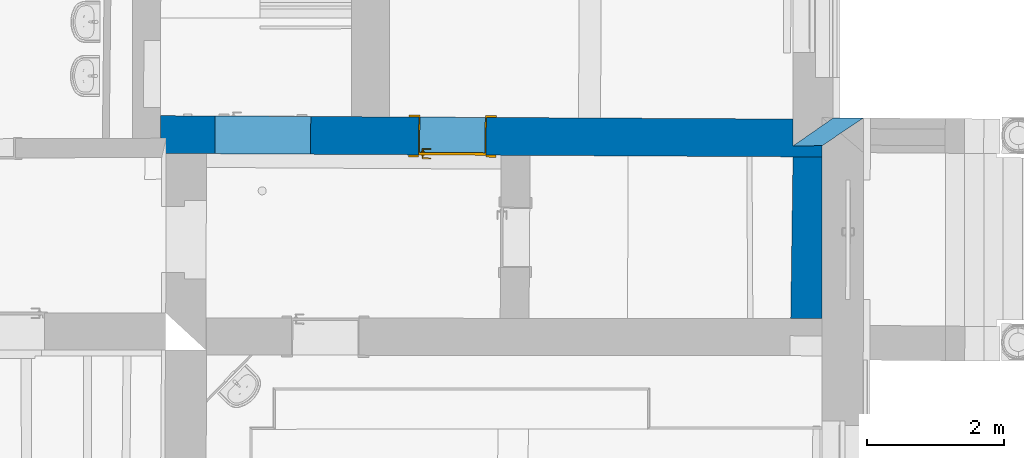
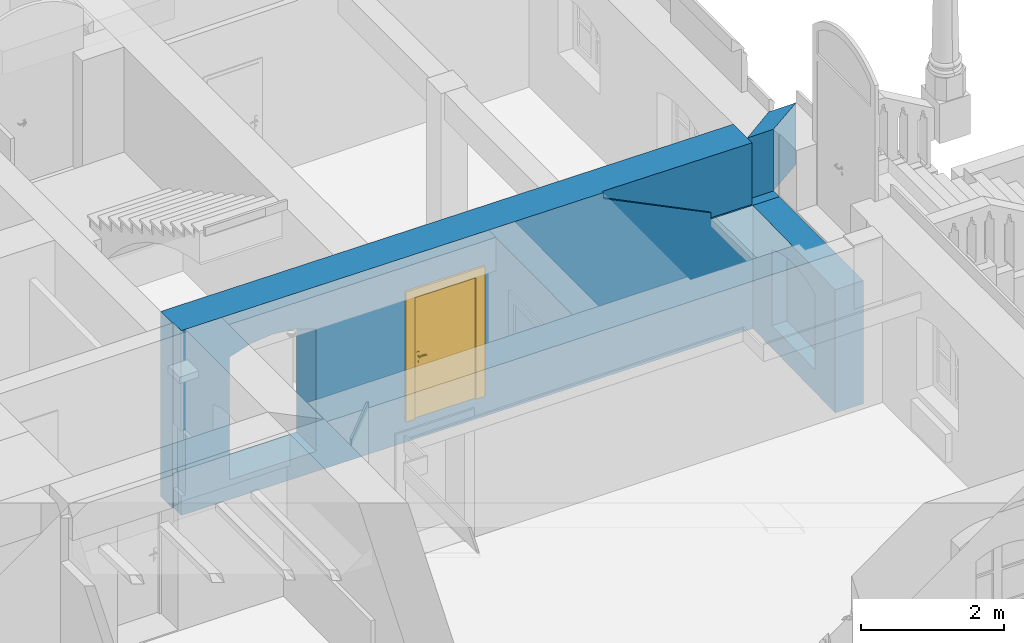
# One storey, part 106 of 196: 3 walls, 1 door, 3 openings.
"""IFC2X3 building model written with IfcOpenShell, lengths in metres."""

from ifc_helpers import new_model, entity, si_unit, converted_unit, derived_unit, money_unit, direction, frame, origin_with_axes, origin_2d_with_axis, place, context, subcontext, project, spatial, polyline, rectangle, outline, extrude, boolean, open_shell, faceted_brep, surface_model, material, type_object, element, fill, save


model = new_model("IFC2X3")

# Units and contexts
model_context = context("Model", 3, precision=1e-05, world=origin_with_axes(), true_north=direction((0.0, 1.0)))
body_context = subcontext(model_context, "Body", "Model", "MODEL_VIEW")
ifc_project = project(units=[si_unit("LENGTHUNIT", "METRE"), si_unit("AREAUNIT", "SQUARE_METRE"), si_unit("VOLUMEUNIT", "CUBIC_METRE"), converted_unit("PLANEANGLEUNIT", "DEGREE", entity("IfcPlaneAngleMeasure", 0.0174532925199), si_unit("PLANEANGLEUNIT", "RADIAN"), dimensions=[0, 0, 0, 0, 0, 0, 0]), money_unit("EUR"), converted_unit("TIMEUNIT", "Year", entity("IfcTimeMeasure", 31556926.0), si_unit("TIMEUNIT", "SECOND"), dimensions=[0, 0, 1, 0, 0, 0, 0]), si_unit("MASSUNIT", "GRAM", prefix="KILO"), si_unit("THERMODYNAMICTEMPERATUREUNIT", "DEGREE_CELSIUS"), si_unit("LUMINOUSINTENSITYUNIT", "LUMEN"), si_unit("ENERGYUNIT", "JOULE", prefix="MEGA"), derived_unit("THERMALCONDUCTANCEUNIT", [(si_unit("POWERUNIT", "WATT"), 1), (si_unit("LENGTHUNIT", "METRE"), -1), (si_unit("THERMODYNAMICTEMPERATUREUNIT", "KELVIN"), -1)]), derived_unit("SPECIFICHEATCAPACITYUNIT", [(si_unit("ENERGYUNIT", "JOULE"), 1), (si_unit("MASSUNIT", "GRAM", prefix="KILO"), -1), (si_unit("THERMODYNAMICTEMPERATUREUNIT", "KELVIN"), -1)]), derived_unit("MASSDENSITYUNIT", [(si_unit("MASSUNIT", "GRAM", prefix="KILO"), 1), (si_unit("VOLUMEUNIT", "CUBIC_METRE"), -1)])], contexts=[model_context])

# Site, building, storey
site_placement = place(None, origin_with_axes())
site = spatial("IfcSite", under=ifc_project, at=site_placement, Name="Gelände", CompositionType="ELEMENT")
building_placement = place(site_placement, origin_with_axes())
building = spatial("IfcBuilding", under=site, at=building_placement, Name="Gebäude", CompositionType="ELEMENT")
storey_placement = place(building_placement, frame((0.0, 0.0, -3.0), z_axis=(0.0, 0.0, 1.0), x_axis=(1.0, 0.0, 0.0)))
storey = spatial("IfcBuildingStorey", under=building, at=storey_placement, Name="KELLERGESCHOSS", CompositionType="ELEMENT", Elevation=-3.0)

# Wall
ifc_material = material(Name="05_ALLGEMEIN - TRAGENDE BAUTEILE")
wall_type_1 = type_object("IfcWallType", Name="05_ALLGEMEIN - TRAGENDE BAUTEILE 400", PredefinedType="ELEMENTEDWALL")
wall_1_placement = place(storey_placement, frame((32.1207494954, 19.80428634, -0.36), z_axis=(0.0, 0.0, 1.0), x_axis=(-0.999985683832, -0.00535089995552, 0.0)))
element("IfcWall", 1, at=wall_1_placement, inside=storey, type_object=wall_type_1, material=ifc_material, Name="Wand-038", ObjectType="ELEMENTEDWALL", context=body_context, shape_type="CSG", body=[
    boolean("DIFFERENCE", extrude(outline(polyline([(0.0, 0.0), (1.02566973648, 0.0), (1.02566973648, 0.4), (0.0, 0.4), (0.0, 0.0)])), origin_with_axes(), (0.0, 0.0, 1.0), 3.15), faceted_brep([(0.0, 0.0, 2.1), (0.0, 0.0, 3.15), (0.0, 0.4, 3.15), (0.0, 0.4, 0.0), (0.0, 0.0, 0.0), (0.602456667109, 0.4, 3.15), (0.602456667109, 0.4, 2.1), (1.02566973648, 0.4, 2.1), (1.02566973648, 0.4, 0.0), (1.02566973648, 0.0, 0.0), (0.443656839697, 0.0, 2.1), (1.02566973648, 0.0, 3.15), (0.443656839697, 0.0, 3.15), (1.02566973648, 0.4, 3.15)], [[[0, 1, 2, 3, 4]], [[5, 1, 0, 6]], [[1, 5, 2]], [[6, 7, 8, 3, 2, 5]], [[9, 4, 3, 8]], [[10, 0, 4, 9, 11, 12]], [[0, 10, 7, 6]], [[7, 13, 11, 9, 8]], [[13, 12, 11]], [[10, 12, 13, 7]]])),
])

# Wall, opening
wall_type_2 = type_object("IfcWallType", Name="05_ALLGEMEIN - TRAGENDE BAUTEILE 540", PredefinedType="ELEMENTEDWALL")
wall_2_placement = place(storey_placement, frame((31.0552738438, 16.3450183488, -0.36), z_axis=(0.0, 0.0, 1.0), x_axis=(0.0140782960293, 0.99990089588, 0.0)))
wall_2 = element("IfcWall", 2, at=wall_2_placement, inside=storey, type_object=wall_type_2, material=ifc_material, Name="Wand-039", ObjectType="ELEMENTEDWALL", context=body_context, shape_type="CSG", body=[
    boolean("DIFFERENCE", extrude(outline(polyline([(0.0, -0.54), (3.44879317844, -0.54), (3.44879317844, 0.0), (0.0, 0.0), (0.0, -0.54)])), origin_with_axes(), (0.0, 0.0, 1.0), 2.1), faceted_brep([(0.545936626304, -0.455608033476, 2.1), (0.540045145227, 0.0, 2.1), (0.0, 0.0, 2.1), (0.0, -0.54, 2.1), (3.44879317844, -0.54, 2.1), (3.44879317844, 0.0, 2.1), (2.89465692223, 0.0, 2.1), (2.89835705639, -0.424281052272, 2.1), (0.545936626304, -0.455608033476, 0.0), (0.540045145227, 0.0, 0.0), (0.0, 0.0, 0.0), (0.0, -0.54, 0.0), (3.44879317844, -0.54, 0.0), (3.44879317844, 0.0, 0.0), (2.89465692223, 0.0, 0.0), (2.8983570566, -0.42428105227, 0.0)], [[[0, 1, 2, 3, 4, 5, 6, 7]], [[1, 0, 8, 9]], [[1, 9, 10, 2]], [[2, 10, 11, 3]], [[3, 11, 12, 4]], [[4, 12, 13, 5]], [[14, 6, 5, 13]], [[7, 6, 14, 15]], [[0, 7, 15, 8]], [[15, 14, 13, 12, 11, 10, 9, 8]]])),
])
opening_1_placement = place(wall_2_placement, frame((1.73325800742, 0.0, 0.385307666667), z_axis=(0.0, 0.0, 1.0), x_axis=(1.0, 0.0, 0.0)))
element("IfcOpeningElement", 3, at=opening_1_placement, cuts=wall_2, Name="Fenster-020", ObjectType="Recess", context=body_context, shape_type="SweptSolid", body=[
    extrude(outline(polyline([(-0.613526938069, 0.0), (-0.613526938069, -1.28999999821), (-0.376193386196, -1.37911930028), (-0.126757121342, -1.42440743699), (0.12675712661, -1.42440743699), (0.376193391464, -1.37911930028), (0.613526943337, -1.28999999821), (0.613527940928, -1.28990000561), (0.613526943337, 0.0), (-0.613526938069, 0.0)])), frame((0.0, -0.236479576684, 0.0), z_axis=(0.0, 1.0, 0.0), x_axis=(1.0, 0.0, 0.0)), (0.0, 0.0, 1.0), 0.776479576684),
])

# Wall, openings, door
wall_type_3 = type_object("IfcWallType", Name="05_ALLGEMEIN - TRAGENDE BAUTEILE 549", PredefinedType="ELEMENTEDWALL")
wall_3_placement = place(storey_placement, frame((21.8936057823, 19.2886957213, -0.36), z_axis=(0.0, 0.0, 1.0), x_axis=(0.999985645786, -0.00535800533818, 0.0)))
wall_3 = element("IfcWall", 4, at=wall_3_placement, inside=storey, type_object=wall_type_3, material=ifc_material, Name="Wand-039", ObjectType="ELEMENTEDWALL", context=body_context, shape_type="CSG", body=[
    boolean("DIFFERENCE", boolean("DIFFERENCE", extrude(outline(polyline([(-0.41223074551, 0.0), (9.7473638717, 0.0), (9.7473638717, 0.549406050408), (-0.41223074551, 0.549406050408), (-0.41223074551, 0.0)])), origin_with_axes(), (0.0, 0.0, 1.0), 3.15), faceted_brep([(0.016699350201, 0.0, 0.328813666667), (0.0820710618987, 0.0, 0.328813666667), (0.0820710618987, 0.0, 1.44302866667), (0.016699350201, 0.0, 1.44302866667), (0.016699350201, 0.0, 3.15), (-0.41223074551, 0.0, 3.15), (-0.41223074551, 0.0, 0.0), (0.016699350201, 0.0, 0.0), (0.0147613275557, 0.221483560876, 0.328813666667), (0.0815381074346, 0.222067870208, 0.328813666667), (0.0815381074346, 0.222067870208, 1.44302866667), (0.0147613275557, 0.221483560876, 1.44302866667), (0.0147613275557, 0.221483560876, 3.15), (-0.000897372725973, 0.221346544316, 3.15), (-0.00222737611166, 0.549406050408, 3.14999999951), (-0.41223074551, 0.549406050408, 3.15), (-0.41223074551, 0.549406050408, 0.0), (0.0147613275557, 0.221483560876, 0.0), (-0.0022273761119, 0.549406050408, 0.0), (-0.000897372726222, 0.221346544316, 0.0)], [[[0, 1, 2, 3, 4, 5, 6, 7]], [[1, 0, 8, 9]], [[2, 1, 9, 10]], [[3, 2, 10, 11]], [[12, 4, 3, 11]], [[13, 14, 15, 5, 4, 12]], [[15, 16, 6, 5]], [[17, 7, 6, 16, 18, 19]], [[0, 7, 17, 8]], [[13, 12, 11, 10, 9, 8, 17, 19]], [[18, 14, 13, 19]], [[14, 18, 16, 15]]])), faceted_brep([(9.2029069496, 0.15941960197, 0.0), (9.20068595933, 0.549406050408, 0.0), (9.7473638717, 0.549406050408, 0.0), (9.7473638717, 0.0, 0.0), (9.62684918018, 0.0, 0.0), (9.62475346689, 0.456042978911, 0.0), (9.2029069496, 0.15941960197, 2.1), (9.20255199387, 0.22174672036, 2.1), (9.20255199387, 0.221746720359, 3.15), (9.20068595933, 0.549406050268, 3.15), (9.20068595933, 0.549406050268, 2.97), (6.23256917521, 0.549406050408, 2.69), (6.23256919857, 0.549406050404, 3.15), (9.7473638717, 0.549406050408, 3.15), (6.40108515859, 0.549406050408, 2.97), (6.40108515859, 0.549406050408, 2.69), (9.7473638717, 0.0, 3.15), (9.62684918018, -2.07762695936e-10, 2.1), (6.80067894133, 0.0, 3.15), (6.80067894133, 0.0, 3.04855351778), (8.53321084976, 0.0, 2.20354518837), (8.53321084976, 0.0, 2.1), (9.20255199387, 0.0, 2.1), (9.62609575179, 0.163951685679, 2.1), (9.62475346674, 0.456043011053, 2.1), (8.53297627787, 0.0279619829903, 2.1), (9.20255199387, 0.0259164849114, 2.1), (9.20255199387, 0.0259164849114, 3.15), (6.80078052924, 0.0332537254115, 3.15), (6.40108526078, 0.549377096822, 3.15), (6.40108526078, 0.549377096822, 2.97), (6.40108526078, 0.549377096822, 2.69), (6.80078052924, 0.0332537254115, 3.10418361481), (6.80078052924, 0.0332537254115, 3.04855351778), (8.53297627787, 0.0279619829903, 2.20370125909), (8.53297627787, 0.0279619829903, 2.2)], [[[0, 1, 2, 3, 4, 5]], [[1, 0, 6, 7, 8, 9, 10]], [[11, 12, 9, 13, 2, 1, 10, 14, 15]], [[16, 3, 2, 13]], [[17, 4, 3, 16, 18, 19, 20, 21, 22]], [[5, 4, 17, 23, 24]], [[0, 5, 24, 6]], [[17, 22, 21, 25, 26, 7, 6, 24, 23]], [[27, 8, 7, 26]], [[28, 18, 16, 13, 9, 8, 27]], [[9, 29, 30, 10]], [[29, 12, 11, 31, 30]], [[29, 9, 12]], [[14, 10, 30]], [[15, 14, 30, 31]], [[11, 15, 31]], [[18, 28, 32, 33, 19]], [[20, 19, 33, 34]], [[21, 20, 34, 35, 25]], [[28, 27, 26, 25, 35, 34, 33, 32]]])),
])
opening_2_placement = place(wall_3_placement, frame((1.4871061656, 0.0, 0.3401735), z_axis=(0.0, 0.0, 1.0), x_axis=(1.0, 0.0, 0.0)))
element("IfcOpeningElement", 5, at=opening_2_placement, cuts=wall_3, Name="Tür-022", context=body_context, shape_type="SweptSolid", body=[
    extrude(outline(polyline([(0.695992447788, 0.0), (0.695992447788, 2.09), (0.355841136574, 2.20104651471), (0.0, 2.23861416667), (-0.355841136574, 2.20104651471), (-0.695992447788, 2.09), (-0.695992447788, 0.0), (0.695992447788, 0.0)])), frame((0.0, 0.549406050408, 0.0), z_axis=(0.0, 1.0, 0.0), x_axis=(-1.0, 0.0, 0.0)), (0.0, 0.0, -1.0), 1.64821815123),
])
opening_3_placement = place(wall_3_placement, frame((4.24576842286, 0.0, 0.362380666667), z_axis=(0.0, 0.0, 1.0), x_axis=(1.0, 0.0, 0.0)))
opening_3 = element("IfcOpeningElement", 6, at=opening_3_placement, cuts=wall_3, Name="Tür-022", context=body_context, shape_type="SweptSolid", body=[
    extrude(rectangle(XDim=0.982381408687, YDim=2.070532, at=origin_2d_with_axis()), frame((0.0, -0.549406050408, 1.035266), z_axis=(0.0, -1.0, 0.0), x_axis=(1.0, 0.0, 0.0)), (0.0, 0.0, -1.0), 1.64821815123),
])
door_style = type_object("IfcDoorStyle", Name="Blockrahmentür 1-Fl 25", ConstructionType="NOTDEFINED", OperationType="SINGLE_SWING_LEFT", ParameterTakesPrecedence=False, Sizeable=False)
door_placement = place(opening_3_placement, frame((0.476190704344, 0.0, 0.0), z_axis=(0.0, 0.0, 1.0), x_axis=(-1.0, 0.0, 0.0)))
door = element("IfcDoor", 7, at=door_placement, inside=storey, type_object=door_style, Name="Tür-022", ObjectType="NOTDEFINED", OverallHeight=2.07053, OverallWidth=0.982381, context=body_context, shape_type="SurfaceModel", body=[
    faceted_brep([(-0.015, -0.579406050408, 0.0), (-0.015, -0.579406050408, 2.070532), (-0.015, -0.035, 2.070532), (-0.015, -0.035, 0.0), (0.0, -0.579406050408, 0.0), (0.0, -0.579406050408, 2.055532), (0.361090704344, -0.579406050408, 2.055532), (0.476090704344, -0.579406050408, 2.055532), (0.952381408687, -0.579406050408, 2.055532), (0.952381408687, -0.579406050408, 0.0), (0.967381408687, -0.579406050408, 0.0), (0.967381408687, -0.579406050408, 2.070532), (0.967381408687, -0.035, 2.070532), (0.967381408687, -0.035, 0.0), (0.952381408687, -0.035, 0.0), (0.952381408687, -0.035, 2.055532), (0.476090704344, -0.035, 2.055532), (0.361090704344, -0.035, 2.055532), (0.0, -0.035, 2.055532), (0.0, -0.035, 0.0)], [[[0, 1, 2, 3]], [[0, 4, 5, 6, 7, 8, 9, 10, 11, 1]], [[1, 11, 12, 2]], [[3, 2, 12, 13, 14, 15, 16, 17, 18, 19]], [[4, 0, 3, 19]], [[5, 4, 19, 18]], [[6, 5, 18, 17]], [[7, 6, 17, 16]], [[8, 7, 16, 15]], [[9, 8, 15, 14]], [[10, 9, 14, 13]], [[11, 10, 13, 12]]]),
    surface_model("IfcShellBasedSurfaceModel", [(-0.015, -0.035, 0.0), (-0.015, -0.035, 2.070532), (-0.015, 0.03, 2.070532), (-0.015, 0.03, 0.0), (0.967381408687, -0.035, 2.070532), (0.461090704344, -0.035, 2.070532), (0.376090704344, -0.035, 2.070532), (0.376090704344, 0.03, 2.070532), (0.461090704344, 0.03, 2.070532), (0.967381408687, 0.03, 2.070532), (-0.015, 0.03, 2.070532), (-0.015, -0.035, 2.070532), (0.967381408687, 0.03, 2.070532), (0.967381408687, -0.035, 0.0), (0.967381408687, 0.03, 0.0), (0.967381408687, -0.035, 2.070532)], [open_shell([[[0, 1, 2, 3]], [[4, 5, 6, 1]], [[1, 6, 7, 2]], [[7, 8, 9, 10]], [[11, 0, 3, 10]], [[4, 11, 10, 12]], [[13, 4, 12, 14]], [[15, 13, 14, 9]], [[5, 15, 9, 8]], [[6, 5, 8, 7]]])]),
    faceted_brep([(-0.16, -0.579406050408, 0.0), (-0.16, -0.579406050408, 2.215532), (-0.16, -0.549406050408, 2.215532), (-0.16, -0.549406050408, 0.0), (-0.015, -0.579406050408, 0.0), (-0.015, -0.579406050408, 2.070532), (0.967381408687, -0.579406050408, 2.070532), (0.967381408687, -0.579406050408, 0.0), (1.11238140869, -0.579406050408, 0.0), (1.11238140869, -0.579406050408, 2.215532), (1.11238140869, -0.549406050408, 2.215532), (1.11238140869, -0.549406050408, 0.0), (0.967381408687, -0.549406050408, 0.0), (0.967381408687, -0.549406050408, 2.070532), (-0.015, -0.549406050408, 2.070532), (-0.015, -0.549406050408, 0.0)], [[[0, 1, 2, 3]], [[0, 4, 5, 6, 7, 8, 9, 1]], [[1, 9, 10, 2]], [[3, 2, 10, 11, 12, 13, 14, 15]], [[4, 0, 3, 15]], [[5, 4, 15, 14]], [[6, 5, 14, 13]], [[7, 6, 13, 12]], [[8, 7, 12, 11]], [[9, 8, 11, 10]]]),
    faceted_brep([(-0.16, 0.0, 0.0), (-0.16, 0.0, 2.215532), (-0.16, 0.03, 2.215532), (-0.16, 0.03, 0.0), (-0.015, 0.0, 0.0), (-0.015, 0.0, 2.070532), (0.967381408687, 0.0, 2.070532), (0.967381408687, 0.0, 0.0), (1.11238140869, 0.0, 0.0), (1.11238140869, 0.0, 2.215532), (1.11238140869, 0.03, 2.215532), (1.11238140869, 0.03, 0.0), (0.967381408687, 0.03, 0.0), (0.967381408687, 0.03, 2.070532), (-0.015, 0.03, 2.070532), (-0.015, 0.03, 0.0)], [[[0, 1, 2, 3]], [[0, 4, 5, 6, 7, 8, 9, 1]], [[1, 9, 10, 2]], [[3, 2, 10, 11, 12, 13, 14, 15]], [[4, 0, 3, 15]], [[5, 4, 15, 14]], [[6, 5, 14, 13]], [[7, 6, 13, 12]], [[8, 7, 12, 11]], [[9, 8, 11, 10]]]),
    faceted_brep([(-0.015, 0.002, 0.0), (-0.015, 0.002, 2.070532), (0.967381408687, 0.002, 2.070532), (0.967381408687, 0.002, 0.0), (-0.015, -0.035, 0.0), (-0.015, -0.035, 2.070532), (0.967381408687, -0.035, 2.070532), (0.967381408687, -0.035, 0.0)], [[[0, 1, 2, 3]], [[0, 4, 5, 1]], [[1, 5, 6, 2]], [[2, 6, 7, 3]], [[3, 7, 4, 0]], [[7, 6, 5, 4]]]),
    faceted_brep([(0.912083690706, -0.075, 1.05647213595), (0.912083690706, -0.055, 1.05647213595), (0.907381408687, -0.055, 1.058), (0.907381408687, -0.075, 1.058), (0.914989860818, -0.075, 1.05247213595), (0.914989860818, -0.055, 1.05247213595), (0.91325926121, -0.053, 1.05809016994), (0.907381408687, -0.053, 1.06), (0.902679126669, -0.055, 1.05647213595), (0.902679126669, -0.075, 1.05647213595), (0.899772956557, -0.075, 1.05247213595), (0.899772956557, -0.075, 1.04752786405), (0.902679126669, -0.075, 1.04352786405), (0.907381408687, -0.075, 1.042), (0.912083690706, -0.075, 1.04352786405), (0.914989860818, -0.075, 1.04752786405), (0.914989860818, -0.055, 1.04752786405), (0.91689197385, -0.053, 1.05309016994), (0.91325926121, -0.045, 1.05809016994), (0.907381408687, -0.045, 1.06), (0.901503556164, -0.053, 1.05809016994), (0.899772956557, -0.055, 1.05247213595), (0.899772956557, -0.055, 1.04752786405), (0.902679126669, -0.055, 1.04352786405), (0.907381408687, -0.055, 1.042), (0.912083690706, -0.055, 1.04352786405), (0.91689197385, -0.053, 1.04690983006), (0.91689197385, -0.045, 1.05309016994), (0.91689197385, -0.045, 1.04690983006), (0.91325926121, -0.045, 1.04190983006), (0.907381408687, -0.045, 1.04), (0.901503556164, -0.045, 1.04190983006), (0.897870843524, -0.045, 1.04690983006), (0.897870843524, -0.045, 1.05309016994), (0.901503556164, -0.045, 1.05809016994), (0.897870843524, -0.053, 1.05309016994), (0.897870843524, -0.053, 1.04690983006), (0.901503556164, -0.053, 1.04190983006), (0.907381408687, -0.053, 1.04), (0.91325926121, -0.053, 1.04190983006)], [[[0, 1, 2, 3]], [[4, 5, 1, 0]], [[1, 6, 7, 2]], [[3, 2, 8, 9]], [[3, 9, 10, 11, 12, 13, 14, 15, 4, 0]], [[15, 16, 5, 4]], [[5, 17, 6, 1]], [[6, 18, 19, 7]], [[2, 7, 20, 8]], [[9, 8, 21, 10]], [[10, 21, 22, 11]], [[11, 22, 23, 12]], [[12, 23, 24, 13]], [[13, 24, 25, 14]], [[14, 25, 16, 15]], [[16, 26, 17, 5]], [[17, 27, 18, 6]], [[19, 18, 27, 28, 29, 30, 31, 32, 33, 34]], [[7, 19, 34, 20]], [[8, 20, 35, 21]], [[21, 35, 36, 22]], [[22, 36, 37, 23]], [[23, 37, 38, 24]], [[24, 38, 39, 25]], [[25, 39, 26, 16]], [[26, 28, 27, 17]], [[39, 29, 28, 26]], [[38, 30, 29, 39]], [[37, 31, 30, 38]], [[36, 32, 31, 37]], [[35, 33, 32, 36]], [[20, 34, 33, 35]]]),
    faceted_brep([(0.895193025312, -0.045, 1.11759695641), (0.890581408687, -0.045, 1.11), (0.884881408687, -0.045, 1.11), (0.884881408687, -0.045, 0.89), (0.890581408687, -0.045, 0.89), (0.895193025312, -0.045, 0.882403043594), (0.902937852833, -0.045, 0.878044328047), (0.911824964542, -0.045, 0.878044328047), (0.919569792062, -0.045, 0.882403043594), (0.924181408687, -0.045, 0.89), (0.929881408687, -0.045, 0.89), (0.929881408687, -0.045, 1.11), (0.924181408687, -0.045, 1.11), (0.919569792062, -0.045, 1.11759695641), (0.911824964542, -0.045, 1.12195567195), (0.902937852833, -0.045, 1.12195567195), (0.907381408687, -0.045, 0.967425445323), (0.912756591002, -0.045, 0.965143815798), (0.914849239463, -0.045, 0.959692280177), (0.912381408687, -0.045, 0.9544), (0.912381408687, -0.045, 0.9375), (0.910916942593, -0.045, 0.933964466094), (0.907381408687, -0.045, 0.9325), (0.903845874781, -0.045, 0.933964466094), (0.902381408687, -0.045, 0.9375), (0.902381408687, -0.045, 0.9544), (0.899913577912, -0.045, 0.959692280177), (0.902006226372, -0.045, 0.965143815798), (0.895193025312, -0.035, 1.11759695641), (0.890581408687, -0.035, 1.11), (0.884881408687, -0.035, 1.11), (0.884881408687, -0.035, 0.89), (0.890581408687, -0.035, 0.89), (0.895193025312, -0.035, 0.882403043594), (0.902937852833, -0.035, 0.878044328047), (0.911824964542, -0.035, 0.878044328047), (0.919569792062, -0.035, 0.882403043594), (0.924181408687, -0.035, 0.89), (0.929881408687, -0.035, 0.89), (0.929881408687, -0.035, 1.11), (0.924181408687, -0.035, 1.11), (0.919569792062, -0.035, 1.11759695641), (0.911824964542, -0.035, 1.12195567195), (0.902937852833, -0.035, 1.12195567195), (0.907381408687, -0.035, 0.967425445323), (0.912756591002, -0.035, 0.965143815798), (0.914849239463, -0.035, 0.959692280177), (0.912381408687, -0.035, 0.9544), (0.912381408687, -0.035, 0.9375), (0.910916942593, -0.035, 0.933964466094), (0.907381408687, -0.035, 0.9325), (0.903845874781, -0.035, 0.933964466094), (0.902381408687, -0.035, 0.9375), (0.902381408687, -0.035, 0.9544), (0.899913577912, -0.035, 0.959692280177), (0.902006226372, -0.035, 0.965143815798)], [[[0, 1, 2, 3, 4, 5, 6, 7, 8, 9, 10, 11, 12, 13, 14, 15], [16, 17, 18, 19, 20, 21, 22, 23, 24, 25, 26, 27]], [[0, 28, 29, 1]], [[1, 29, 30, 2]], [[2, 30, 31, 3]], [[3, 31, 32, 4]], [[4, 32, 33, 5]], [[5, 33, 34, 6]], [[6, 34, 35, 7]], [[7, 35, 36, 8]], [[8, 36, 37, 9]], [[9, 37, 38, 10]], [[10, 38, 39, 11]], [[11, 39, 40, 12]], [[12, 40, 41, 13]], [[13, 41, 42, 14]], [[14, 42, 43, 15]], [[15, 43, 28, 0]], [[16, 44, 45, 17]], [[17, 45, 46, 18]], [[18, 46, 47, 19]], [[47, 48, 20, 19]], [[21, 20, 48, 49]], [[22, 21, 49, 50]], [[23, 22, 50, 51]], [[24, 23, 51, 52]], [[25, 24, 52, 53]], [[25, 53, 54, 26]], [[26, 54, 55, 27]], [[27, 55, 44, 16]], [[32, 31, 30, 29, 28, 43, 42, 41, 40, 39, 38, 37, 36, 35, 34, 33], [46, 45, 44, 55, 54, 53, 52, 51, 50, 49, 48, 47]]]),
    faceted_brep([(0.793128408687, -0.075, 1.057158), (0.79312691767, -0.075, 1.05719388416), (0.79312691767, -0.09, 1.05719388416), (0.793128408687, -0.09, 1.057158), (0.820156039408, -0.075, 1.06432652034), (0.847984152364, -0.075, 1.06706086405), (0.875890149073, -0.075, 1.06529002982), (0.903149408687, -0.075, 1.05906), (0.9095519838, -0.075, 1.05976125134), (0.915054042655, -0.075, 1.05641280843), (0.917372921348, -0.075, 1.05040385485), (0.915546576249, -0.075, 1.04422735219), (0.910332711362, -0.075, 1.04044577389), (0.903894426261, -0.075, 1.04062800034), (0.898902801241, -0.075, 1.04469843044), (0.898923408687, -0.075, 1.044666), (0.873634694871, -0.075, 1.05019878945), (0.847792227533, -0.075, 1.05171460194), (0.822030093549, -0.075, 1.04917624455), (0.796980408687, -0.075, 1.042646), (0.791437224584, -0.075, 1.04356849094), (0.788075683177, -0.075, 1.04807159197), (0.788767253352, -0.075, 1.05364829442), (0.788767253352, -0.09, 1.05364829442), (0.788075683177, -0.09, 1.04807159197), (0.791437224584, -0.09, 1.04356849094), (0.796980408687, -0.09, 1.042646), (0.822030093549, -0.09, 1.04917624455), (0.847792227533, -0.09, 1.05171460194), (0.873634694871, -0.09, 1.05019878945), (0.898923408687, -0.09, 1.044666), (0.898902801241, -0.09, 1.04469843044), (0.903894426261, -0.09, 1.04062800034), (0.910332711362, -0.09, 1.04044577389), (0.915546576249, -0.09, 1.04422735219), (0.917372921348, -0.09, 1.05040385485), (0.915054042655, -0.09, 1.05641280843), (0.9095519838, -0.09, 1.05976125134), (0.903149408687, -0.09, 1.05906), (0.875890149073, -0.09, 1.06529002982), (0.847984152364, -0.09, 1.06706086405), (0.820156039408, -0.09, 1.06432652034)], [[[0, 1, 2, 3]], [[0, 4, 5, 6, 7, 8, 9, 10, 11, 12, 13, 14, 15, 16, 17, 18, 19, 20, 21, 22, 1]], [[1, 22, 23, 2]], [[3, 2, 23, 24, 25, 26, 27, 28, 29, 30, 31, 32, 33, 34, 35, 36, 37, 38, 39, 40, 41]], [[4, 0, 3, 41]], [[5, 4, 41, 40]], [[6, 5, 40, 39]], [[7, 6, 39, 38]], [[8, 7, 38, 37]], [[9, 8, 37, 36]], [[10, 9, 36, 35]], [[11, 10, 35, 34]], [[12, 11, 34, 33]], [[13, 12, 33, 32]], [[14, 13, 32, 31]], [[15, 14, 31, 30]], [[16, 15, 30, 29]], [[17, 16, 29, 28]], [[18, 17, 28, 27]], [[19, 18, 27, 26]], [[20, 19, 26, 25]], [[21, 20, 25, 24]], [[22, 21, 24, 23]]]),
    faceted_brep([(0.912083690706, 0.042, 1.05647213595), (0.907381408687, 0.042, 1.058), (0.907381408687, 0.022, 1.058), (0.912083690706, 0.022, 1.05647213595), (0.914989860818, 0.042, 1.05247213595), (0.914989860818, 0.042, 1.04752786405), (0.912083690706, 0.042, 1.04352786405), (0.907381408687, 0.042, 1.042), (0.902679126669, 0.042, 1.04352786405), (0.899772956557, 0.042, 1.04752786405), (0.899772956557, 0.042, 1.05247213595), (0.902679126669, 0.042, 1.05647213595), (0.902679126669, 0.022, 1.05647213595), (0.907381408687, 0.02, 1.06), (0.91325926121, 0.02, 1.05809016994), (0.914989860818, 0.022, 1.05247213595), (0.914989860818, 0.022, 1.04752786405), (0.912083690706, 0.022, 1.04352786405), (0.907381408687, 0.022, 1.042), (0.902679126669, 0.022, 1.04352786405), (0.899772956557, 0.022, 1.04752786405), (0.899772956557, 0.022, 1.05247213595), (0.901503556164, 0.02, 1.05809016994), (0.907381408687, 0.012, 1.06), (0.91325926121, 0.012, 1.05809016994), (0.91689197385, 0.02, 1.05309016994), (0.91689197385, 0.02, 1.04690983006), (0.91325926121, 0.02, 1.04190983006), (0.907381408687, 0.02, 1.04), (0.901503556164, 0.02, 1.04190983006), (0.897870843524, 0.02, 1.04690983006), (0.897870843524, 0.02, 1.05309016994), (0.901503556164, 0.012, 1.05809016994), (0.897870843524, 0.012, 1.05309016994), (0.897870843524, 0.012, 1.04690983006), (0.901503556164, 0.012, 1.04190983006), (0.907381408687, 0.012, 1.04), (0.91325926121, 0.012, 1.04190983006), (0.91689197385, 0.012, 1.04690983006), (0.91689197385, 0.012, 1.05309016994)], [[[0, 1, 2, 3]], [[1, 0, 4, 5, 6, 7, 8, 9, 10, 11]], [[1, 11, 12, 2]], [[3, 2, 13, 14]], [[4, 0, 3, 15]], [[5, 4, 15, 16]], [[6, 5, 16, 17]], [[7, 6, 17, 18]], [[8, 7, 18, 19]], [[9, 8, 19, 20]], [[10, 9, 20, 21]], [[11, 10, 21, 12]], [[2, 12, 22, 13]], [[14, 13, 23, 24]], [[15, 3, 14, 25]], [[16, 15, 25, 26]], [[17, 16, 26, 27]], [[18, 17, 27, 28]], [[19, 18, 28, 29]], [[20, 19, 29, 30]], [[21, 20, 30, 31]], [[12, 21, 31, 22]], [[13, 22, 32, 23]], [[23, 32, 33, 34, 35, 36, 37, 38, 39, 24]], [[25, 14, 24, 39]], [[26, 25, 39, 38]], [[27, 26, 38, 37]], [[28, 27, 37, 36]], [[29, 28, 36, 35]], [[30, 29, 35, 34]], [[31, 30, 34, 33]], [[22, 31, 33, 32]]]),
    faceted_brep([(0.895193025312, 0.002, 1.11759695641), (0.890581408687, 0.002, 1.11), (0.884881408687, 0.002, 1.11), (0.884881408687, 0.002, 0.89), (0.890581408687, 0.002, 0.89), (0.895193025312, 0.002, 0.882403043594), (0.902937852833, 0.002, 0.878044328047), (0.911824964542, 0.00200000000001, 0.878044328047), (0.919569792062, 0.00200000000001, 0.882403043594), (0.924181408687, 0.00200000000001, 0.89), (0.929881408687, 0.002, 0.89), (0.929881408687, 0.002, 1.11), (0.924181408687, 0.00200000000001, 1.11), (0.919569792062, 0.00200000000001, 1.11759695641), (0.911824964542, 0.002, 1.12195567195), (0.902937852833, 0.002, 1.12195567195), (0.907381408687, 0.002, 0.967425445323), (0.912756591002, 0.002, 0.965143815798), (0.914849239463, 0.002, 0.959692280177), (0.912381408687, 0.002, 0.9544), (0.912381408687, 0.002, 0.9375), (0.910916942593, 0.002, 0.933964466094), (0.907381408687, 0.002, 0.9325), (0.903845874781, 0.00200000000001, 0.933964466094), (0.902381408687, 0.002, 0.9375), (0.902381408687, 0.002, 0.9544), (0.899913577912, 0.002, 0.959692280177), (0.902006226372, 0.002, 0.965143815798), (0.895193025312, 0.012, 1.11759695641), (0.890581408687, 0.012, 1.11), (0.884881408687, 0.012, 1.11), (0.884881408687, 0.012, 0.89), (0.890581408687, 0.012, 0.89), (0.895193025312, 0.012, 0.882403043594), (0.902937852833, 0.012, 0.878044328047), (0.911824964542, 0.012, 0.878044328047), (0.919569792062, 0.012, 0.882403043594), (0.924181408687, 0.012, 0.89), (0.929881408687, 0.012, 0.89), (0.929881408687, 0.012, 1.11), (0.924181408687, 0.012, 1.11), (0.919569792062, 0.012, 1.11759695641), (0.911824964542, 0.012, 1.12195567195), (0.902937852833, 0.012, 1.12195567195), (0.907381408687, 0.012, 0.967425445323), (0.912756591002, 0.012, 0.965143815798), (0.914849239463, 0.012, 0.959692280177), (0.912381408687, 0.012, 0.9544), (0.912381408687, 0.012, 0.9375), (0.910916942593, 0.012, 0.933964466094), (0.907381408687, 0.012, 0.9325), (0.903845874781, 0.012, 0.933964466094), (0.902381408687, 0.012, 0.9375), (0.902381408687, 0.012, 0.9544), (0.899913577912, 0.012, 0.959692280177), (0.902006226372, 0.012, 0.965143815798)], [[[0, 1, 2, 3, 4, 5, 6, 7, 8, 9, 10, 11, 12, 13, 14, 15], [16, 17, 18, 19, 20, 21, 22, 23, 24, 25, 26, 27]], [[28, 29, 1, 0]], [[29, 30, 2, 1]], [[30, 31, 3, 2]], [[31, 32, 4, 3]], [[32, 33, 5, 4]], [[33, 34, 6, 5]], [[34, 35, 7, 6]], [[35, 36, 8, 7]], [[36, 37, 9, 8]], [[37, 38, 10, 9]], [[38, 39, 11, 10]], [[39, 40, 12, 11]], [[40, 41, 13, 12]], [[41, 42, 14, 13]], [[42, 43, 15, 14]], [[43, 28, 0, 15]], [[16, 44, 45, 17]], [[17, 45, 46, 18]], [[18, 46, 47, 19]], [[47, 48, 20, 19]], [[21, 20, 48, 49]], [[22, 21, 49, 50]], [[23, 22, 50, 51]], [[24, 23, 51, 52]], [[25, 24, 52, 53]], [[25, 53, 54, 26]], [[26, 54, 55, 27]], [[27, 55, 44, 16]], [[32, 31, 30, 29, 28, 43, 42, 41, 40, 39, 38, 37, 36, 35, 34, 33], [46, 45, 44, 55, 54, 53, 52, 51, 50, 49, 48, 47]]]),
    faceted_brep([(0.793128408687, 0.042, 1.057158), (0.793128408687, 0.057, 1.057158), (0.79312691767, 0.057, 1.05719388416), (0.79312691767, 0.042, 1.05719388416), (0.820156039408, 0.042, 1.06432652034), (0.820156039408, 0.057, 1.06432652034), (0.847984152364, 0.057, 1.06706086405), (0.875890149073, 0.057, 1.06529002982), (0.903149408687, 0.057, 1.05906), (0.9095519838, 0.057, 1.05976125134), (0.915054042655, 0.057, 1.05641280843), (0.917372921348, 0.057, 1.05040385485), (0.915546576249, 0.057, 1.04422735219), (0.910332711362, 0.057, 1.04044577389), (0.903894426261, 0.057, 1.04062800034), (0.898902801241, 0.057, 1.04469843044), (0.898923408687, 0.057, 1.044666), (0.873634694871, 0.057, 1.05019878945), (0.847792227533, 0.057, 1.05171460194), (0.822030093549, 0.057, 1.04917624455), (0.796980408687, 0.057, 1.042646), (0.791437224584, 0.057, 1.04356849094), (0.788075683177, 0.057, 1.04807159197), (0.788767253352, 0.057, 1.05364829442), (0.788767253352, 0.042, 1.05364829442), (0.788075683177, 0.042, 1.04807159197), (0.791437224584, 0.042, 1.04356849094), (0.796980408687, 0.042, 1.042646), (0.822030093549, 0.042, 1.04917624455), (0.847792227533, 0.042, 1.05171460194), (0.873634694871, 0.042, 1.05019878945), (0.898923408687, 0.042, 1.044666), (0.898902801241, 0.042, 1.04469843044), (0.903894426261, 0.042, 1.04062800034), (0.910332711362, 0.042, 1.04044577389), (0.915546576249, 0.042, 1.04422735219), (0.917372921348, 0.042, 1.05040385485), (0.915054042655, 0.042, 1.05641280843), (0.9095519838, 0.042, 1.05976125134), (0.903149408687, 0.042, 1.05906), (0.875890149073, 0.042, 1.06529002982), (0.847984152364, 0.042, 1.06706086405)], [[[0, 1, 2, 3]], [[4, 5, 1, 0]], [[1, 5, 6, 7, 8, 9, 10, 11, 12, 13, 14, 15, 16, 17, 18, 19, 20, 21, 22, 23, 2]], [[3, 2, 23, 24]], [[0, 3, 24, 25, 26, 27, 28, 29, 30, 31, 32, 33, 34, 35, 36, 37, 38, 39, 40, 41, 4]], [[41, 6, 5, 4]], [[40, 7, 6, 41]], [[39, 8, 7, 40]], [[38, 9, 8, 39]], [[37, 10, 9, 38]], [[36, 11, 10, 37]], [[35, 12, 11, 36]], [[34, 13, 12, 35]], [[33, 14, 13, 34]], [[32, 15, 14, 33]], [[31, 16, 15, 32]], [[30, 17, 16, 31]], [[29, 18, 17, 30]], [[28, 19, 18, 29]], [[27, 20, 19, 28]], [[26, 21, 20, 27]], [[25, 22, 21, 26]], [[24, 23, 22, 25]]]),
])
fill(opening_3, door)

save(model, "model.ifc")
